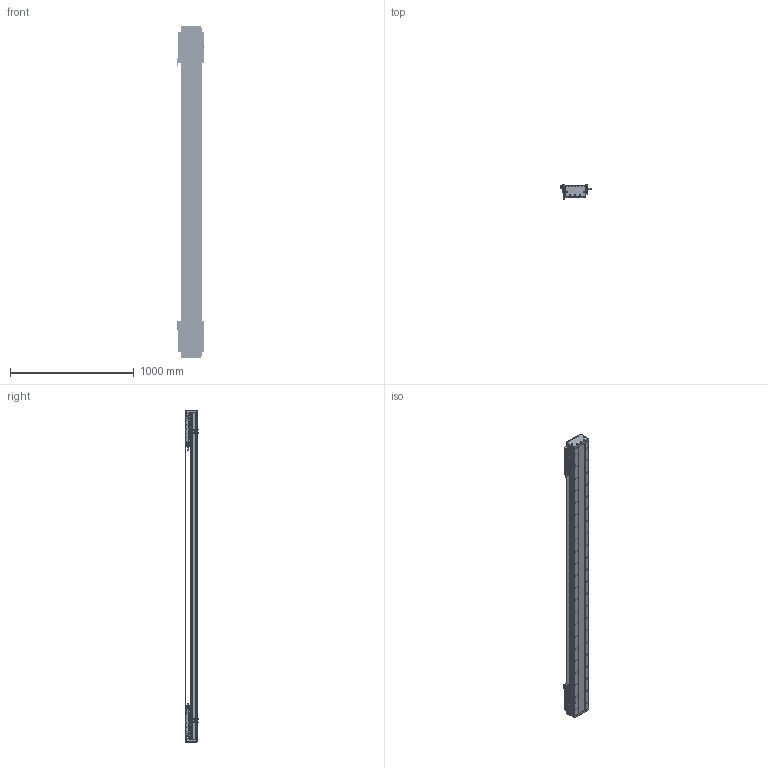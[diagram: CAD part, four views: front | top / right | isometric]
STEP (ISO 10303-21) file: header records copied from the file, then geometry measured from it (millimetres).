
FILE_DESCRIPTION (( 'STEP AP203' ), '1' );
FILE_NAME ('DA-C165-2-C3-T2060-C010-0.2 直线电机.STEP', '2023-06-13T09:19:38', ( '微软用户' ), ( '微软中国' ), 'SwSTEP 2.0', 'SolidWorks 2019', '' );
FILE_SCHEMA (( 'CONFIG_CONTROL_DESIGN' ));
Length unit declared in the file: millimetre
Products named in the file (22): 复件 DA126-GYP-ZJ-00 中间光电感应片^DA-C165-C3-T-C010-0.2-N 直线电机; 复件 XD-U-02L 磁栅尺^DA-C165-C3-T-C010-0.2-N 直线电机_T; 复件 DKW-HXJ-JY-00 缓冲橡胶^DA-C165-C3-T-C010-0.2-N 直线电机; 复件 DA165-GD-DG-H-00 端盖^复件 CU165钢带组件_DA-C165-C3-T-C010-0.2-N 直线电机; 复件 DA95-HXJ-00 缓冲橡胶^DA-C165-C3-T-C010-0.2-N 直线电机; 葩璃 PM-Y45^DA-C165-C3-T-C010-0.2-N 眻盄萇儂; 复件 DA165-GYP-00 光电感应片^DA-C165-C3-T-C010-0.2-N 直线电机; 复件 CU165 底座^IU-CU165-L 底座导轨_L2640; 葩璃 PM-T45^DA-C165-C3-T-C010-0.2-N 眻盄萇儂; 复件 DMA-010-0.2 读数头^DA-C165-C3-T-C010-0.2-N 直线电机; 复件 CU165钢带组件^DA-C165-C3-T-C010-0.2-N 直线电机; 葩璃 CKM03-W075-C1C2-TP-3.0^DA-C165-C3-T-C010-0.2-N 眻盄萇儂; 复件 DA165-GDYK-00 钢带压块^复件 CU165钢带组件_DA-C165-C3-T-C010-0.2-N 直线电机; 复件 DA165-GD-1860-002-00 钢带盖板^复件 CU165钢带组件_DA-C165-C3-T-C010-0.2-N 直线电机; 珨极趙賑雄怢啣C3-wf; 葩璃 CKM01-W075-TRL^DA-C165-C3-T-C010-0.2-N 眻盄萇儂; DA-C165-2-C3-T2060-C010-0.2 眻盄萇儂; 复件 66338-1000-006-00 光电感应块^DA-C165-C3-T-C010-0.2-N 直线电机; 复件 六角薄螺母 M3^DA-C165-C3-T-C010-0.2-N 直线电机_GB_FASTENER_NUT_STNAB M3-C; IU-CU165-L 菁釱絳寢; 复件 DA165-GDLK-00 钢带拉块^复件 CU165钢带组件_DA-C165-C3-T-C010-0.2-N 直线电机; 葩璃 DA95-GT-T-00^IU-CU165-L 菁釱絳寢_T
Assembly tree (45 placements, depth 3):
  DA-C165-2-C3-T2060-C010-0.2 眻盄萇儂
    IU-CU165-L 菁釱絳寢
      复件 CU165 底座^IU-CU165-L 底座导轨_L2640
      葩璃 DA95-GT-T-00^IU-CU165-L 菁釱絳寢_T  x4
    复件 XD-U-02L 磁栅尺^DA-C165-C3-T-C010-0.2-N 直线电机_T
    葩璃 PM-T45^DA-C165-C3-T-C010-0.2-N 眻盄萇儂  x4
    葩璃 CKM01-W075-TRL^DA-C165-C3-T-C010-0.2-N 眻盄萇儂
    复件 CU165钢带组件^DA-C165-C3-T-C010-0.2-N 直线电机
      复件 DA165-GD-DG-H-00 端盖^复件 CU165钢带组件_DA-C165-C3-T-C010-0.2-N 直线电机  x2
      复件 DA165-GDYK-00 钢带压块^复件 CU165钢带组件_DA-C165-C3-T-C010-0.2-N 直线电机  x2
      复件 DA165-GD-1860-002-00 钢带盖板^复件 CU165钢带组件_DA-C165-C3-T-C010-0.2-N 直线电机
      复件 DA165-GDLK-00 钢带拉块^复件 CU165钢带组件_DA-C165-C3-T-C010-0.2-N 直线电机  x2
    复件 DA95-HXJ-00 缓冲橡胶^DA-C165-C3-T-C010-0.2-N 直线电机  x4
    复件 DMA-010-0.2 读数头^DA-C165-C3-T-C010-0.2-N 直线电机  x2
    复件 DA165-GYP-00 光电感应片^DA-C165-C3-T-C010-0.2-N 直线电机  x2
    复件 66338-1000-006-00 光电感应块^DA-C165-C3-T-C010-0.2-N 直线电机
    葩璃 PM-Y45^DA-C165-C3-T-C010-0.2-N 眻盄萇儂
    复件 DA126-GYP-ZJ-00 中间光电感应片^DA-C165-C3-T-C010-0.2-N 直线电机
    葩璃 CKM03-W075-C1C2-TP-3.0^DA-C165-C3-T-C010-0.2-N 眻盄萇儂  x2
    复件 DKW-HXJ-JY-00 缓冲橡胶^DA-C165-C3-T-C010-0.2-N 直线电机  x2
    复件 六角薄螺母 M3^DA-C165-C3-T-C010-0.2-N 直线电机_GB_FASTENER_NUT_STNAB M3-C  x8
    珨极趙賑雄怢啣C3-wf  x2
Bounding box: 247.2 x 111.45 x 2680 mm (x, y, z)
Volume: 17531916.3 mm3; surface area: 4949976.2 mm2
Topology: 121 solids, 221 shells, 6581 faces, 17978 edges, 11192 vertices
Faces by surface type: cylinder 3494, plane 2019, cone 980, torus 80, sphere 8
Entity records: 149306 total; most frequent: CARTESIAN_POINT 39773, ORIENTED_EDGE 22540, DIRECTION 22102, EDGE_CURVE 11270, AXIS2_PLACEMENT_3D 8443, VERTEX_POINT 7346, EDGE_LOOP 5250, LINE 5216
